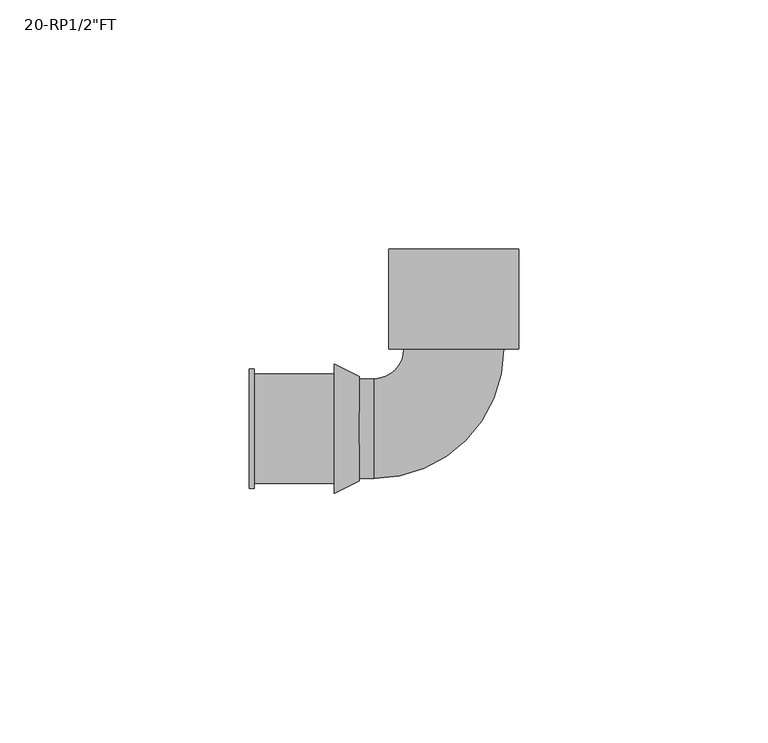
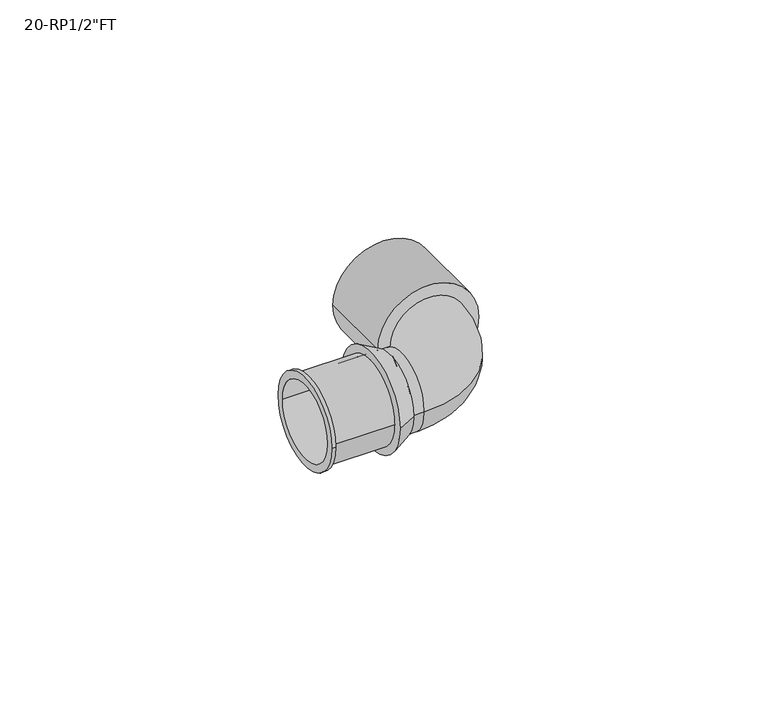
"""IFC4 building model written with IfcOpenShell, lengths in millimetres: pipe fitting geometry."""

from ifc_helpers import new_model, si_unit, point, frame, origin, place, context, project, spatial, polyline, circle_curve, ellipse_curve, trimmed, source, transform, mapped, element, save
from ifc_brep_helpers import plane_surface, cylinder_surface, revolved_surface, advanced_brep


def pipe_fitting_474bcbb5(model_context):
    return source(origin(), model_context, "Body", "AdvancedBrep", [
        advanced_brep(
        [(-13.0, 36.0, 0.0), (13.0, 36.0, 0.0), (-10.0, 36.0, 0.0), (10.0, 36.0, 0.0), (-13.0, 16.0, 0.0), (13.0, 16.0, 0.0), (-10.0, 17.0, 0.0), (10.0, 17.0, 0.0)],
        [
            (0, 1, circle_curve(frame((0.0, 36.0, 0.0), z_axis=(0.0, 1.0, 0.0), x_axis=(1.0, 0.0, 0.0)), 13.0)),
            (1, 0, circle_curve(frame((0.0, 36.0, 0.0), z_axis=(0.0, 1.0, 0.0), x_axis=(1.0, 0.0, 0.0)), 13.0)),
            (2, 3, circle_curve(frame((0.0, 36.0, 0.0), z_axis=(0.0, -1.0, 0.0), x_axis=(1.0, 0.0, 0.0)), 10.0)),
            (3, 2, circle_curve(frame((0.0, 36.0, 0.0), z_axis=(0.0, -1.0, 0.0), x_axis=(1.0, 0.0, 0.0)), 10.0)),
            (4, 5, circle_curve(frame((0.0, 16.0, 0.0), z_axis=(0.0, -1.0, 0.0), x_axis=(1.0, 0.0, 0.0)), 13.0)),
            (5, 4, circle_curve(frame((0.0, 16.0, 0.0), z_axis=(0.0, -1.0, 0.0), x_axis=(1.0, 0.0, 0.0)), 13.0)),
            (1, 5),
            (4, 0),
            (2, 6),
            (6, 7, circle_curve(frame((0.0, 17.0, 0.0), z_axis=(0.0, -1.0, 0.0), x_axis=(1.0, 0.0, 0.0)), 10.0)),
            (7, 3),
            (7, 6, circle_curve(frame((0.0, 17.0, 0.0), z_axis=(0.0, -1.0, 0.0), x_axis=(1.0, 0.0, 0.0)), 10.0)),
        ],
        [
            plane_surface(frame((0.0, 36.0, 0.0), z_axis=(0.0, 1.0, 0.0), x_axis=(0.0, 0.0, 1.0))),
            plane_surface(frame((0.0, 16.0, 0.0), z_axis=(0.0, -1.0, 0.0), x_axis=(0.0, 0.0, 1.0))),
            cylinder_surface(frame((0.0, 36.0, 0.0), z_axis=(0.0, 1.0, 0.0), x_axis=(1.0, 0.0, 0.0)), 13.0),
            revolved_surface(polyline([(10.0, 17.0, 0.0), (10.0, 36.0, 0.0)]), (0.0, 36.0, 0.0), (0.0, -1.0, 0.0)),
            plane_surface(frame((0.0, 17.0, 0.0), z_axis=(0.0, 1.0, 0.0), x_axis=(0.0, 0.0, 1.0))),
        ],
        [
            (0, [[1, 2], [3, 4]]),
            (1, [[5, 6]]),
            (2, [[-2, 7, -5, 8]]),
            (2, [[-1, -8, -6, -7]]),
            (3, [[-3, 9, 10, 11]]),
            (3, [[-4, -11, 12, -9]]),
            (4, [[-10, -12]]),
        ],
    ),
        advanced_brep(
        [(10.0, 16.0, 0.0), (-10.0, 16.0, 0.0), (-16.0, 10.0, 0.0), (-16.0, -10.0, 0.0), (-19.0, -10.0, 0.0), (-19.0, 10.0, 0.0)],
        [
            (0, 1, circle_curve(frame((0.0, 16.0, 0.0), z_axis=(0.0, 1.0, 0.0), x_axis=(-1.0, 0.0, 0.0)), 10.0)),
            (1, 0, circle_curve(frame((0.0, 16.0, 0.0), z_axis=(0.0, 1.0, 0.0), x_axis=(-1.0, 0.0, 0.0)), 10.0)),
            (1, 2, circle_curve(frame((-16.0, 16.0, 0.0), z_axis=(0.0, 0.0, -1.0), x_axis=(0.0, -1.0, 0.0)), 6.0)),
            (2, 3, circle_curve(frame((-16.0, 0.0, 0.0), z_axis=(1.0, 0.0, 0.0), x_axis=(0.0, 1.0, 0.0)), 10.0)),
            (3, 0, circle_curve(frame((-16.0, 16.0, 0.0), z_axis=(0.0, 0.0, 1.0), x_axis=(0.0, -1.0, 0.0)), 26.0)),
            (3, 2, circle_curve(frame((-16.0, 0.0, 0.0), z_axis=(1.0, 0.0, 0.0), x_axis=(0.0, 1.0, 0.0)), 10.0)),
            (4, 5, circle_curve(frame((-19.0, 0.0, 0.0), z_axis=(-1.0, 0.0, 0.0), x_axis=(0.0, 1.0, 0.0)), 10.0)),
            (5, 4, circle_curve(frame((-19.0, 0.0, 0.0), z_axis=(-1.0, 0.0, 0.0), x_axis=(0.0, 1.0, 0.0)), 10.0)),
            (4, 3),
            (2, 5),
        ],
        [
            plane_surface(frame((0.0, 16.0, 0.0), z_axis=(0.0, 1.0, 0.0), x_axis=(0.0, 0.0, 1.0))),
            revolved_surface(trimmed(ellipse_curve(frame((-16.0, 0.0, 0.0), z_axis=(-1.0, 0.0, 0.0), x_axis=(0.0, 1.0, 0.0)), 10.0, 10.0), [point((-16.0, -10.0, 0.0))], [point((-16.0, 10.0, 0.0))], True, "CARTESIAN"), (-16.0, 16.0, 0.0), (0.0, 0.0, 1.0)),
            revolved_surface(trimmed(ellipse_curve(frame((-16.0, 0.0, 0.0), z_axis=(-1.0, 0.0, 0.0), x_axis=(0.0, 1.0, 0.0)), 10.0, 10.0), [point((-16.0, 10.0, 0.0))], [point((-16.0, -10.0, 0.0))], True, "CARTESIAN"), (-16.0, 16.0, 0.0), (0.0, 0.0, 1.0)),
            plane_surface(frame((-19.0, 0.0, 0.0), z_axis=(-1.0, 0.0, 0.0), x_axis=(0.0, 0.0, 1.0))),
            cylinder_surface(frame((-19.0, 0.0, 0.0), z_axis=(-1.0, 0.0, 0.0), x_axis=(0.0, 1.0, 0.0)), 10.0),
        ],
        [
            (0, [[1, 2]]),
            (1, [[-2, 3, 4, 5]]),
            (2, [[-1, -5, 6, -3]]),
            (3, [[7, 8]]),
            (4, [[-7, 9, -4, 10]]),
            (4, [[-8, -10, -6, -9]]),
        ],
    ),
        advanced_brep(
        [(-19.0, -10.5, 0.0), (-19.0, 10.5, 0.0), (-19.0, 10.0, 0.0), (-19.0, -10.0, 0.0), (-24.0, -13.0, 0.0), (-24.0, 13.0, 0.0), (-24.0, -10.0, 0.0), (-24.0, 10.0, 0.0)],
        [
            (0, 1, circle_curve(frame((-19.0, 0.0, 0.0), z_axis=(1.0, 0.0, 0.0), x_axis=(0.0, -1.0, 0.0)), 10.5)),
            (1, 0, circle_curve(frame((-19.0, 0.0, 0.0), z_axis=(1.0, 0.0, 0.0), x_axis=(0.0, 1.0, 0.0)), 10.5)),
            (2, 3, circle_curve(frame((-19.0, 0.0, 0.0), z_axis=(-1.0, 0.0, 0.0), x_axis=(0.0, 1.0, 0.0)), 10.0)),
            (3, 2, circle_curve(frame((-19.0, 0.0, 0.0), z_axis=(-1.0, 0.0, 0.0), x_axis=(0.0, 1.0, 0.0)), 10.0)),
            (4, 5, circle_curve(frame((-24.0, 0.0, 0.0), z_axis=(-1.0, 0.0, 0.0), x_axis=(0.0, 1.0, 0.0)), 13.0)),
            (5, 4, circle_curve(frame((-24.0, 0.0, 0.0), z_axis=(-1.0, 0.0, 0.0), x_axis=(0.0, -1.0, 0.0)), 13.0)),
            (6, 7, circle_curve(frame((-24.0, 0.0, 0.0), z_axis=(1.0, 0.0, 0.0), x_axis=(0.0, 1.0, 0.0)), 10.0)),
            (7, 6, circle_curve(frame((-24.0, 0.0, 0.0), z_axis=(1.0, 0.0, 0.0), x_axis=(0.0, 1.0, 0.0)), 10.0)),
            (0, 4),
            (5, 1),
            (2, 7),
            (6, 3),
        ],
        [
            plane_surface(frame((-19.0, 0.0, 0.0), z_axis=(1.0, 0.0, 0.0), x_axis=(0.0, 0.0, -1.0))),
            plane_surface(frame((-24.0, 0.0, 0.0), z_axis=(-1.0, 0.0, 0.0), x_axis=(0.0, 0.0, -1.0))),
            revolved_surface(polyline([(-19.0, -10.5, 0.0), (-24.0, -13.0, 0.0)]), (2.0, 0.0, 0.0), (-1.0, 0.0, 0.0)),
            revolved_surface(polyline([(-19.0, 10.5, 0.0), (-24.0, 13.0, 0.0)]), (2.0, 0.0, 0.0), (-1.0, 0.0, 0.0)),
            revolved_surface(polyline([(-19.0, 10.0, 0.0), (-24.0, 10.0, 0.0)]), (-24.0, 0.0, 0.0), (1.0, 0.0, 0.0)),
        ],
        [
            (0, [[1, 2], [3, 4]]),
            (1, [[5, 6], [7, 8]]),
            (2, [[-1, 9, -6, 10]]),
            (3, [[-2, -10, -5, -9]]),
            (4, [[11, -7, 12, -3]]),
            (4, [[-11, -4, -12, -8]]),
        ],
    ),
        advanced_brep(
        [(-41.0, -12.0, 0.0), (-41.0, 12.0, 0.0), (-41.0, -10.0, 0.0), (-41.0, 10.0, 0.0), (-24.0, -11.0, 0.0), (-24.0, 11.0, 0.0), (-24.0, -10.0, 0.0), (-24.0, 10.0, 0.0), (-40.0, 11.0, 0.0), (-40.0, -11.0, 0.0), (-40.0, -12.0, 0.0), (-40.0, 12.0, 0.0)],
        [
            (0, 1, circle_curve(frame((-41.0, 0.0, 0.0), z_axis=(-1.0, 0.0, 0.0), x_axis=(0.0, 1.0, 0.0)), 12.0)),
            (1, 0, circle_curve(frame((-41.0, 0.0, 0.0), z_axis=(-1.0, 0.0, 0.0), x_axis=(0.0, 1.0, 0.0)), 12.0)),
            (2, 3, circle_curve(frame((-41.0, 0.0, 0.0), z_axis=(1.0, 0.0, 0.0), x_axis=(0.0, 1.0, 0.0)), 10.0)),
            (3, 2, circle_curve(frame((-41.0, 0.0, 0.0), z_axis=(1.0, 0.0, 0.0), x_axis=(0.0, 1.0, 0.0)), 10.0)),
            (4, 5, circle_curve(frame((-24.0, 0.0, 0.0), z_axis=(1.0, 0.0, 0.0), x_axis=(0.0, 1.0, 0.0)), 11.0)),
            (5, 4, circle_curve(frame((-24.0, 0.0, 0.0), z_axis=(1.0, 0.0, 0.0), x_axis=(0.0, 1.0, 0.0)), 11.0)),
            (6, 7, circle_curve(frame((-24.0, 0.0, 0.0), z_axis=(-1.0, 0.0, 0.0), x_axis=(0.0, 1.0, 0.0)), 10.0)),
            (7, 6, circle_curve(frame((-24.0, 0.0, 0.0), z_axis=(-1.0, 0.0, 0.0), x_axis=(0.0, 1.0, 0.0)), 10.0)),
            (2, 6),
            (7, 3),
            (5, 8),
            (8, 9, circle_curve(frame((-40.0, 0.0, 0.0), z_axis=(1.0, 0.0, 0.0), x_axis=(0.0, 1.0, 0.0)), 11.0)),
            (9, 4),
            (9, 8, circle_curve(frame((-40.0, 0.0, 0.0), z_axis=(1.0, 0.0, 0.0), x_axis=(0.0, 1.0, 0.0)), 11.0)),
            (10, 11, circle_curve(frame((-40.0, 0.0, 0.0), z_axis=(1.0, 0.0, 0.0), x_axis=(0.0, 1.0, 0.0)), 12.0)),
            (11, 10, circle_curve(frame((-40.0, 0.0, 0.0), z_axis=(1.0, 0.0, 0.0), x_axis=(0.0, 1.0, 0.0)), 12.0)),
            (0, 10),
            (11, 1),
        ],
        [
            plane_surface(frame((-41.0, 0.0, 0.0), z_axis=(-1.0, 0.0, 0.0), x_axis=(0.0, 0.0, 1.0))),
            plane_surface(frame((-24.0, 0.0, 0.0), z_axis=(1.0, 0.0, 0.0), x_axis=(0.0, 0.0, 1.0))),
            revolved_surface(polyline([(-24.0, 10.0, 0.0), (-41.0, 10.0, 0.0)]), (-41.0, 0.0, 0.0), (1.0, 0.0, 0.0)),
            cylinder_surface(frame((-41.0, 0.0, 0.0), z_axis=(-1.0, 0.0, 0.0), x_axis=(0.0, 1.0, 0.0)), 11.0),
            plane_surface(frame((-40.0, 0.0, 0.0), z_axis=(1.0, 0.0, 0.0), x_axis=(0.0, 0.0, 1.0))),
            cylinder_surface(frame((-41.0, 0.0, 0.0), z_axis=(-1.0, 0.0, 0.0), x_axis=(0.0, 1.0, 0.0)), 12.0),
        ],
        [
            (0, [[1, 2], [3, 4]]),
            (1, [[5, 6], [7, 8]]),
            (2, [[-3, 9, -8, 10]]),
            (2, [[-4, -10, -7, -9]]),
            (3, [[-6, 11, 12, 13]]),
            (3, [[-5, -13, 14, -11]]),
            (4, [[15, 16], [-12, -14]]),
            (5, [[-1, 17, -16, 18]]),
            (5, [[-2, -18, -15, -17]]),
        ],
    ),
    ])


if __name__ == "__main__":
    model = new_model("IFC4")
    model_context = context("Model", 3, world=origin())
    ifc_project = project(units=[si_unit("LENGTHUNIT", "METRE", prefix="MILLI")], contexts=[model_context])
    site = spatial("IfcSite", under=ifc_project)
    building = spatial("IfcBuilding", under=site)
    placement = place(None, origin())
    pipe_fitting_shape = pipe_fitting_474bcbb5(model_context)
    element("IfcPipeFitting", 1, ObjectType="SuperPipe_ElbowAdapterFT_MAX_RP : 20-RP1/2\"FT", at=placement, inside=building, context=model_context, shape_type="MappedRepresentation", body=[
        mapped(pipe_fitting_shape, transform((0.0, 0.0, 0.0), x_axis=(1.0, 0.0, 0.0), y_axis=(0.0, 1.0, 0.0), z_axis=(0.0, 0.0, 1.0))),
    ])
    save(model, "model.ifc")
